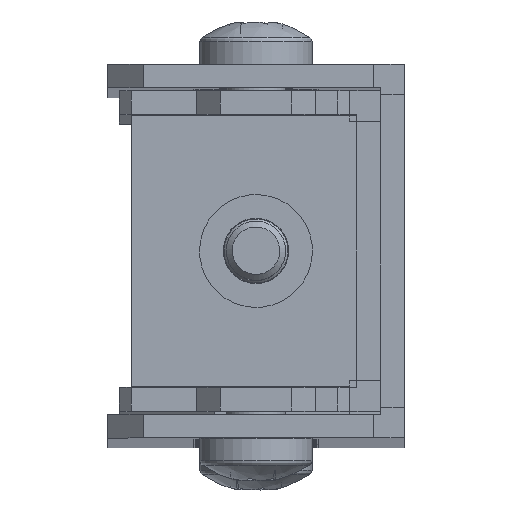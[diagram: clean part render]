
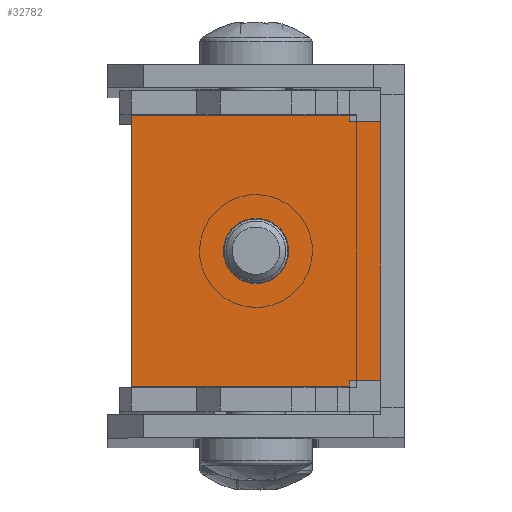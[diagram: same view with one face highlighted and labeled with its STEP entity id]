
A CAD part, top view. The second image highlights one B-rep face of the part: STEP entity #32782.
In plain terms, the highlighted planar face has unit normal (0, 0, 1) as drawn and (0, -1, 0) by its records, which use the part's own axes.
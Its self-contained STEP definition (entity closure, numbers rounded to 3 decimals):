
#31861 = VERTEX_POINT('',#31862);
#31862 = CARTESIAN_POINT('',(-10.9,-16.5,0.));
#31868 = EDGE_CURVE('',#31869,#31861,#31871,.T.);
#31869 = VERTEX_POINT('',#31870);
#31870 = CARTESIAN_POINT('',(10.9,-16.5,0.));
#31871 = LINE('',#31872,#31873);
#31872 = CARTESIAN_POINT('',(0.,-16.5,-0.));
#31873 = VECTOR('',#31874,1.);
#31874 = DIRECTION('',(-1.,0.,0.));
#32723 = VERTEX_POINT('',#32724);
#32724 = CARTESIAN_POINT('',(10.9,-16.5,-2.6));
#32739 = EDGE_CURVE('',#32723,#31869,#32740,.T.);
#32740 = LINE('',#32741,#32742);
#32741 = CARTESIAN_POINT('',(10.9,-16.5,-2.6));
#32742 = VECTOR('',#32743,1.);
#32743 = DIRECTION('',(-0.,0.,1.));
#32763 = VERTEX_POINT('',#32764);
#32764 = CARTESIAN_POINT('',(-10.9,-16.5,-2.6));
#32770 = EDGE_CURVE('',#32763,#31861,#32771,.T.);
#32771 = LINE('',#32772,#32773);
#32772 = CARTESIAN_POINT('',(-10.9,-16.5,0.));
#32773 = VECTOR('',#32774,1.);
#32774 = DIRECTION('',(0.,0.,1.));
#32782 = ADVANCED_FACE('',(#32783,#32794),#32837,.T.);
#32783 = FACE_BOUND('',#32784,.T.);
#32784 = EDGE_LOOP('',(#32785));
#32785 = ORIENTED_EDGE('',*,*,#32786,.T.);
#32786 = EDGE_CURVE('',#32787,#32787,#32789,.T.);
#32787 = VERTEX_POINT('',#32788);
#32788 = CARTESIAN_POINT('',(0.,-16.5,-7.75));
#32789 = CIRCLE('',#32790,2.75);
#32790 = AXIS2_PLACEMENT_3D('',#32791,#32792,#32793);
#32791 = CARTESIAN_POINT('',(0.,-16.5,-10.5));
#32792 = DIRECTION('',(0.,1.,0.));
#32793 = DIRECTION('',(0.,0.,1.));
#32794 = FACE_BOUND('',#32795,.T.);
#32795 = EDGE_LOOP('',(#32796,#32806,#32814,#32820,#32821,#32822,#32823,
    #32831));
#32796 = ORIENTED_EDGE('',*,*,#32797,.F.);
#32797 = EDGE_CURVE('',#32798,#32800,#32802,.T.);
#32798 = VERTEX_POINT('',#32799);
#32799 = CARTESIAN_POINT('',(11.4,-16.5,-21.));
#32800 = VERTEX_POINT('',#32801);
#32801 = CARTESIAN_POINT('',(-11.4,-16.5,-21.));
#32802 = LINE('',#32803,#32804);
#32803 = CARTESIAN_POINT('',(-10.9,-16.5,-21.));
#32804 = VECTOR('',#32805,1.);
#32805 = DIRECTION('',(-1.,0.,0.));
#32806 = ORIENTED_EDGE('',*,*,#32807,.F.);
#32807 = EDGE_CURVE('',#32808,#32798,#32810,.T.);
#32808 = VERTEX_POINT('',#32809);
#32809 = CARTESIAN_POINT('',(11.4,-16.5,-2.6));
#32810 = LINE('',#32811,#32812);
#32811 = CARTESIAN_POINT('',(11.4,-16.5,-2.6));
#32812 = VECTOR('',#32813,1.);
#32813 = DIRECTION('',(0.,0.,-1.));
#32814 = ORIENTED_EDGE('',*,*,#32815,.F.);
#32815 = EDGE_CURVE('',#32723,#32808,#32816,.T.);
#32816 = LINE('',#32817,#32818);
#32817 = CARTESIAN_POINT('',(10.9,-16.5,-2.6));
#32818 = VECTOR('',#32819,1.);
#32819 = DIRECTION('',(1.,0.,0.));
#32820 = ORIENTED_EDGE('',*,*,#32739,.T.);
#32821 = ORIENTED_EDGE('',*,*,#31868,.T.);
#32822 = ORIENTED_EDGE('',*,*,#32770,.F.);
#32823 = ORIENTED_EDGE('',*,*,#32824,.T.);
#32824 = EDGE_CURVE('',#32763,#32825,#32827,.T.);
#32825 = VERTEX_POINT('',#32826);
#32826 = CARTESIAN_POINT('',(-11.4,-16.5,-2.6));
#32827 = LINE('',#32828,#32829);
#32828 = CARTESIAN_POINT('',(-10.9,-16.5,-2.6));
#32829 = VECTOR('',#32830,1.);
#32830 = DIRECTION('',(-1.,0.,0.));
#32831 = ORIENTED_EDGE('',*,*,#32832,.T.);
#32832 = EDGE_CURVE('',#32825,#32800,#32833,.T.);
#32833 = LINE('',#32834,#32835);
#32834 = CARTESIAN_POINT('',(-11.4,-16.5,-2.6));
#32835 = VECTOR('',#32836,1.);
#32836 = DIRECTION('',(0.,0.,-1.));
#32837 = PLANE('',#32838);
#32838 = AXIS2_PLACEMENT_3D('',#32839,#32840,#32841);
#32839 = CARTESIAN_POINT('',(0.,-16.5,
    0.));
#32840 = DIRECTION('',(0.,-1.,0.));
#32841 = DIRECTION('',(0.,0.,-1.));
